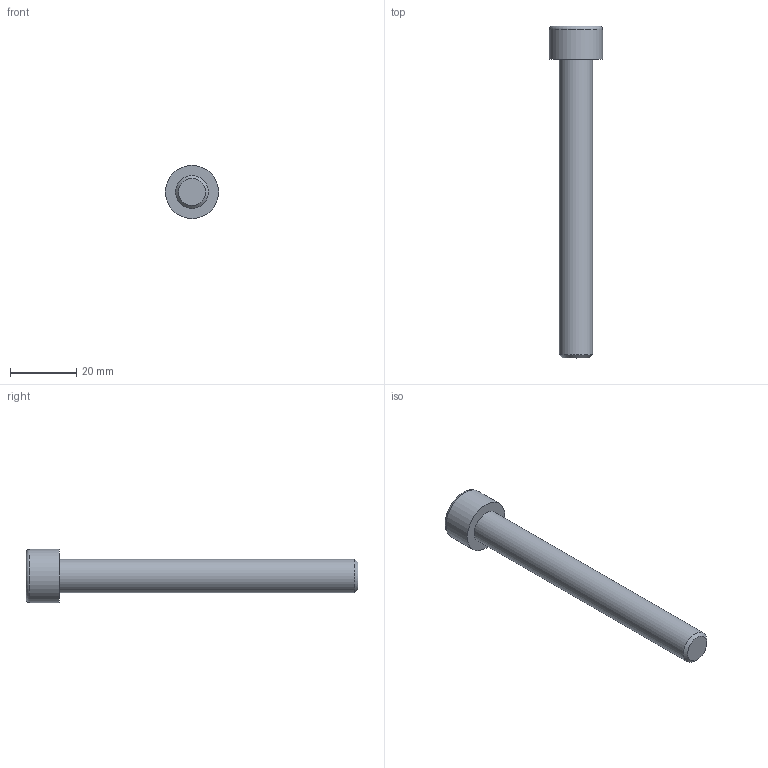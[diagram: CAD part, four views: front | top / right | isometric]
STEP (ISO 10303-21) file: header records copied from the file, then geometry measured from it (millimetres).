
FILE_DESCRIPTION(/* description */ (''),/* implementation_level */ '2;1');
FILE_NAME(/* name */ 'C:\Users\D\Documents\Inventor\各種小物\JIS\JIS B 1176 六角穴付きボルト\M10x90.stp',/* time_stamp */ '2022-05-09T18:52:03+09:00',/* author */ ('D'),/* organization */ (''),/* preprocessor_version */ 'ST-DEVELOPER v18',/* originating_system */ 'Autodesk Inventor 2020',/* authorisation */ '');
FILE_SCHEMA (('AUTOMOTIVE_DESIGN { 1 0 10303 214 3 1 1 }'));
Length unit declared in the file: millimetre
Products named in the file (1): M1.6x2.5
Bounding box: 16 x 100 x 16 mm (x, y, z)
Volume: 8721.2 mm3; surface area: 3845.8 mm2
Topology: 1 solids, 1 shells, 14 faces, 33 edges, 22 vertices
Faces by surface type: plane 9, cone 2, cylinder 2, torus 1
Full cylindrical faces by diameter (mm): 10 x1, 16 x1
Entity records: 435 total; most frequent: CARTESIAN_POINT 83, ORIENTED_EDGE 64, DIRECTION 64, EDGE_CURVE 32, AXIS2_PLACEMENT_3D 24, VERTEX_POINT 22, EDGE_LOOP 16, LINE 16
